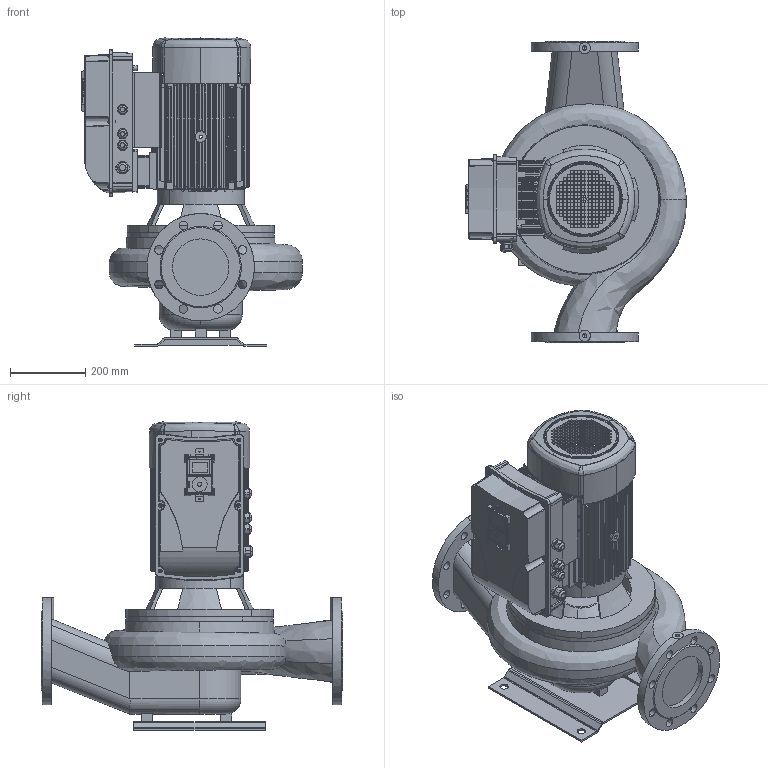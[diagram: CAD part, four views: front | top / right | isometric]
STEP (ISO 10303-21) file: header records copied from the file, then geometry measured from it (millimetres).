
FILE_DESCRIPTION(('STEP AP214'),'1');
FILE_NAME('export.stp','2018-08-09T07:28:52',(' '),(' '),'Spatial InterOp 3D',' ',' ');
FILE_SCHEMA(('AUTOMOTIVE_DESIGN { 1 0 10303 214 1 1 1 1 }'));
Length unit declared in the file: millimetre
Products named in the file (29): W_AL1154475VS; V_EKF31OKN132133; V_TLL100SAL1202; P100496; P100495; P100342; MS3_Vac20CP_KP134; P101415; P101409; R200882; P101462; Piirilevyn_pala; A2004-2-4-LP-N-R; P101414; Vacon_Display; CAD-3D-VACON-M100-Display.sldasm; Vacon_display_pla; Vacon_display_scr; R201240; DIN_7985-M5x10; M20_tiivisteholkk; M25_tiivisteholkk; G43699; P101416; DIN_965-M5x16; DIN_7985-M5x20; DIN_7985-M4x16; DIN_7985-M5x60; V_PPAL1154
Assembly tree (47 placements, depth 4):
  W_AL1154475VS
    V_EKF31OKN132133
    V_TLL100SAL1202
    P100496
      P100495  x2
      P100342
    MS3_Vac20CP_KP134
      P101415
      P101409
      R200882
      P101462
        Piirilevyn_pala
        A2004-2-4-LP-N-R  x2
      P101414
      Vacon_Display
        CAD-3D-VACON-M100-Display.sldasm
        Vacon_display_pla
        Vacon_display_scr
      R201240
      DIN_7985-M5x10  x6
      M20_tiivisteholkk  x3
      M25_tiivisteholkk
      G43699  x3
      P101416
      DIN_965-M5x16  x4
      DIN_7985-M5x20  x2
      DIN_7985-M4x16  x2
      DIN_7985-M5x60  x4
    V_PPAL1154
Bounding box: 586.25 x 800 x 818.99 mm (x, y, z)
Volume: 46555683.4 mm3; surface area: 4801489.8 mm2
Topology: 42 solids, 1515 shells, 5413 faces, 18521 edges, 14694 vertices
Faces by surface type: plane 2137, bspline 1552, cylinder 1189, cone 298, torus 192, sphere 45
Entity records: 243855 total; most frequent: CARTESIAN_POINT 84523, ORIENTED_EDGE 26474, DIRECTION 17791, EDGE_CURVE 17059, VERTEX_POINT 13820, B_SPLINE_CURVE_WITH_KNOTS 7176, AXIS2_PLACEMENT_3D 5938, LINE 5915
